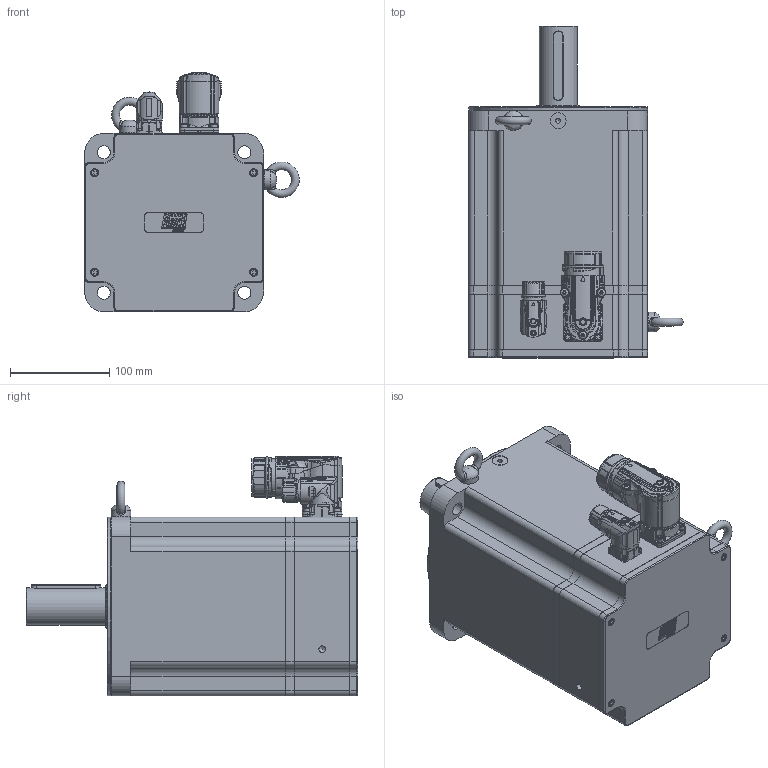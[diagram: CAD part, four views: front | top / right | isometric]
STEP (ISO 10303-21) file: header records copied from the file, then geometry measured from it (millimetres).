
FILE_DESCRIPTION(/* description */ ('Unknown'),/* implementation_level */ '2;1');
FILE_NAME(/* name */ 'TC4-180.7D.X X.X.3.XX.0.X.G3.00.00 Q0B809',/* time_stamp */ '2026-03-10T15:03:47+01:00',/* author */ ('Unknown'),/* organization */ ('Unknown'),/* preprocessor_version */ 'ST-DEVELOPER v19.4',/* originating_system */ 'Solid Edge',/* authorisation */ 'Unknown');
FILE_SCHEMA (('AUTOMOTIVE_DESIGN {1 0 10303 214 3 1 1}'));
Products named in the file (16): Q0B809 7D VUOTO; Calotta TC4-180 V8; 003251040631; 005911000479; 005911000205; 003155002231; 005113001040; 005119001064; 005911000185; 007117000452; Coperchio campana TC4-180; 003003199943; 007117000454; 005911000180; 005321000010; Corpo TC4-180 7D
Assembly tree (32 placements, depth 2):
  Q0B809 7D VUOTO
    Calotta TC4-180 V8
    003251040631
    005911000479  x8
    005911000205  x4
    003155002231
    005113001040
    005119001064
    005911000185  x4
    007117000452
    Coperchio campana TC4-180
    003003199943
    007117000454
    005911000180  x4
    005321000010  x2
    Corpo TC4-180 7D
Bounding box: 215.98 x 334 x 241.45 mm (x, y, z)
Volume: 3365985.4 mm3; surface area: 711217.4 mm2
Topology: 34 solids, 35 shells, 3280 faces, 8129 edges, 5042 vertices
Faces by surface type: plane 1169, cylinder 702, bspline 616, cone 346, torus 313, sphere 134
Full cylindrical faces by diameter (mm): 0.5 x1, 1 x17, 1.2 x17, 2 x4, 2.013 x8, 2.5 x4, 3 x5, 3.242 x12, 3.6 x5, 4 x12, 4.134 x24, 4.2 x8, 4.5 x9, 4.7 x4, 4.917 x2, 5 x8, 5.4 x1, 5.5 x9, 5.9 x1, 6.647 x14, 7 x10, 8 x9, 9 x4, 10 x5, 10.106 x2, 15.2 x1, 16 x1, 17.4 x2, 18 x1, 20 x3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
Entity records: 144875 total; most frequent: CARTESIAN_POINT 59778, ORIENTED_EDGE 13726, DIRECTION 11881, EDGE_CURVE 6863, AXIS2_PLACEMENT_3D 4681, VERTEX_POINT 4539, FACE_BOUND 3804, EDGE_LOOP 3777
